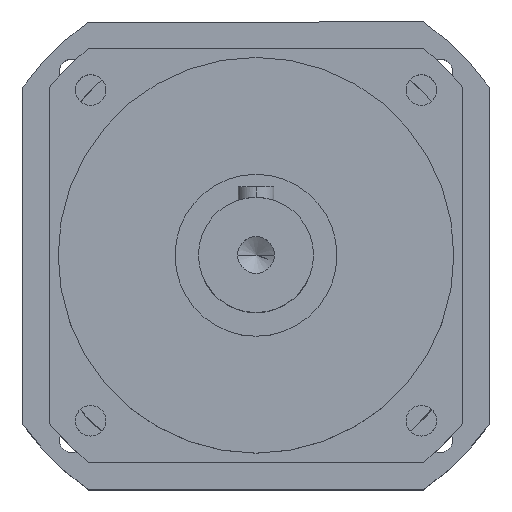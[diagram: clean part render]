
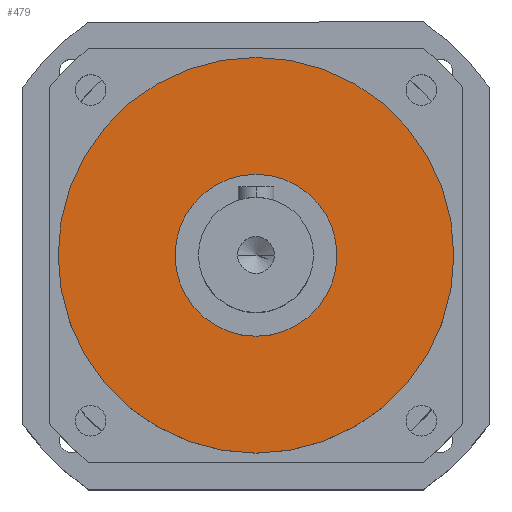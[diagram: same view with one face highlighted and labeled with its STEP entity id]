
A CAD part, top view. The second image highlights one B-rep face of the part: STEP entity #479.
In plain terms, the highlighted planar face has unit normal (0, 0, 1).
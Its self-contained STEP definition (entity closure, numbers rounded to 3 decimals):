
#479 = ADVANCED_FACE ( 'NONE', ( #8961, #8956 ), #8074, .T. ) ;
#1561 = CARTESIAN_POINT ( 'NONE',  ( 0., 55., 68. ) ) ;
#1564 = CARTESIAN_POINT ( 'NONE',  ( 0., -55., 68. ) ) ;
#1570 = CARTESIAN_POINT ( 'NONE',  ( 0., 22.5, 68. ) ) ;
#1571 = CARTESIAN_POINT ( 'NONE',  ( 0., -22.5, 68. ) ) ;
#2096 = AXIS2_PLACEMENT_3D ( 'NONE', #8073, #8079, #8080 ) ;
#2708 = CARTESIAN_POINT ( 'NONE',  ( 0., 0., 68. ) ) ;
#2709 = DIRECTION ( 'NONE',  ( 0., 0., -1. ) ) ;
#2710 = DIRECTION ( 'NONE',  ( 0., 1., 0. ) ) ;
#3214 = CARTESIAN_POINT ( 'NONE',  ( 0., 0., 68. ) ) ;
#3215 = DIRECTION ( 'NONE',  ( 0., 0., -1. ) ) ;
#3216 = DIRECTION ( 'NONE',  ( 0., 1., 0. ) ) ;
#3228 = CARTESIAN_POINT ( 'NONE',  ( 0., 0., 68. ) ) ;
#3229 = DIRECTION ( 'NONE',  ( 0., 0., -1. ) ) ;
#3230 = DIRECTION ( 'NONE',  ( 0., 1., 0. ) ) ;
#3356 = CARTESIAN_POINT ( 'NONE',  ( 0., 0., 68. ) ) ;
#3357 = DIRECTION ( 'NONE',  ( 0., 0., -1. ) ) ;
#3358 = DIRECTION ( 'NONE',  ( 0., 1., 0. ) ) ;
#3747 = CIRCLE ( 'NONE', #4641, 22.5 ) ;
#3783 = CIRCLE ( 'NONE', #4631, 22.5 ) ;
#3793 = CIRCLE ( 'NONE', #4628, 55. ) ;
#4144 = CIRCLE ( 'NONE', #4566, 55. ) ;
#4475 = EDGE_CURVE ( 'NONE', #9351, #9348, #4144, .T. ) ;
#4566 = AXIS2_PLACEMENT_3D ( 'NONE', #2708, #2709, #2710 ) ;
#4628 = AXIS2_PLACEMENT_3D ( 'NONE', #3214, #3215, #3216 ) ;
#4631 = AXIS2_PLACEMENT_3D ( 'NONE', #3228, #3229, #3230 ) ;
#4641 = AXIS2_PLACEMENT_3D ( 'NONE', #3356, #3357, #3358 ) ;
#6848 = EDGE_CURVE ( 'NONE', #9348, #9351, #3793, .T. ) ;
#6854 = EDGE_CURVE ( 'NONE', #9357, #9358, #3783, .T. ) ;
#6881 = EDGE_CURVE ( 'NONE', #9358, #9357, #3747, .T. ) ;
#7345 = ORIENTED_EDGE ( 'NONE', *, *, #4475, .F. ) ;
#7346 = ORIENTED_EDGE ( 'NONE', *, *, #6848, .F. ) ;
#7347 = ORIENTED_EDGE ( 'NONE', *, *, #6881, .T. ) ;
#7348 = ORIENTED_EDGE ( 'NONE', *, *, #6854, .T. ) ;
#7603 = EDGE_LOOP ( 'NONE', ( #7346, #7345 ) ) ;
#7669 = EDGE_LOOP ( 'NONE', ( #7348, #7347 ) ) ;
#8073 = CARTESIAN_POINT ( 'NONE',  ( 0., 22.5, 68. ) ) ;
#8074 = PLANE ( 'NONE',  #2096 ) ;
#8079 = DIRECTION ( 'NONE',  ( 0., 0., 1. ) ) ;
#8080 = DIRECTION ( 'NONE',  ( 0., -1., 0. ) ) ;
#8956 = FACE_OUTER_BOUND ( 'NONE', #7603, .T. ) ;
#8961 = FACE_BOUND ( 'NONE', #7669, .T. ) ;
#9348 = VERTEX_POINT ( 'NONE', #1561 ) ;
#9351 = VERTEX_POINT ( 'NONE', #1564 ) ;
#9357 = VERTEX_POINT ( 'NONE', #1570 ) ;
#9358 = VERTEX_POINT ( 'NONE', #1571 ) ;
